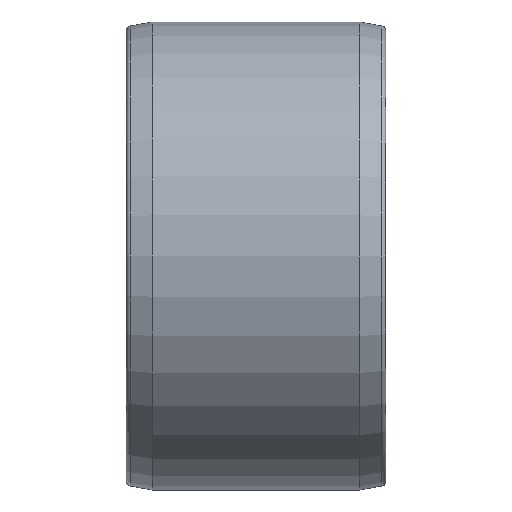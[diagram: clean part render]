
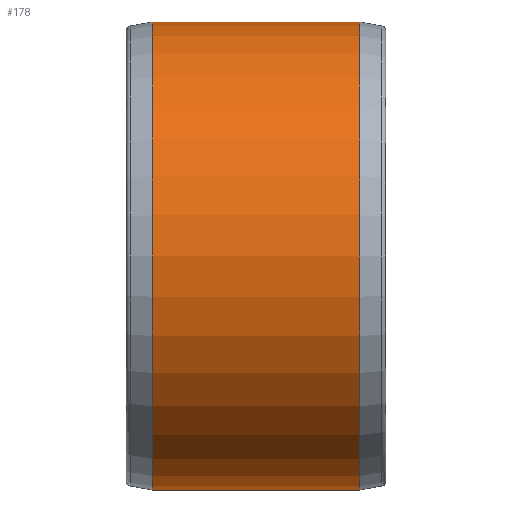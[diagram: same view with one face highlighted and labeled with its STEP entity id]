
A CAD part, front view. The second image highlights one B-rep face of the part: STEP entity #178.
In plain terms, the highlighted cylindrical face has radius 55 mm (diameter 110 mm), a full revolution.
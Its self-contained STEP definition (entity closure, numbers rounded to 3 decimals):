
#20=CYLINDRICAL_SURFACE('',#210,55.);
#38=FACE_BOUND('',#82,.T.);
#53=FACE_OUTER_BOUND('',#81,.T.);
#81=EDGE_LOOP('',(#156));
#82=EDGE_LOOP('',(#157));
#92=CIRCLE('',#196,55.);
#98=CIRCLE('',#207,55.);
#107=VERTEX_POINT('',#296);
#113=VERTEX_POINT('',#313);
#122=EDGE_CURVE('',#107,#107,#92,.T.);
#128=EDGE_CURVE('',#113,#113,#98,.T.);
#156=ORIENTED_EDGE('',*,*,#122,.F.);
#157=ORIENTED_EDGE('',*,*,#128,.F.);
#178=ADVANCED_FACE('',(#53,#38),#20,.T.);
#196=AXIS2_PLACEMENT_3D('',#297,#242,#243);
#207=AXIS2_PLACEMENT_3D('',#314,#264,#265);
#210=AXIS2_PLACEMENT_3D('',#318,#270,#271);
#242=DIRECTION('center_axis',(1.,0.,0.));
#243=DIRECTION('ref_axis',(0.,0.,-1.));
#264=DIRECTION('center_axis',(-1.,0.,0.));
#265=DIRECTION('ref_axis',(0.,-1.,0.));
#270=DIRECTION('center_axis',(1.,0.,0.));
#271=DIRECTION('ref_axis',(0.,1.,0.));
#296=CARTESIAN_POINT('',(-6.1,55.,0.));
#297=CARTESIAN_POINT('Origin',(-6.1,0.,0.));
#313=CARTESIAN_POINT('',(-54.9,55.,0.));
#314=CARTESIAN_POINT('Origin',(-54.9,0.,0.));
#318=CARTESIAN_POINT('Origin',(-33.55,0.,0.));
